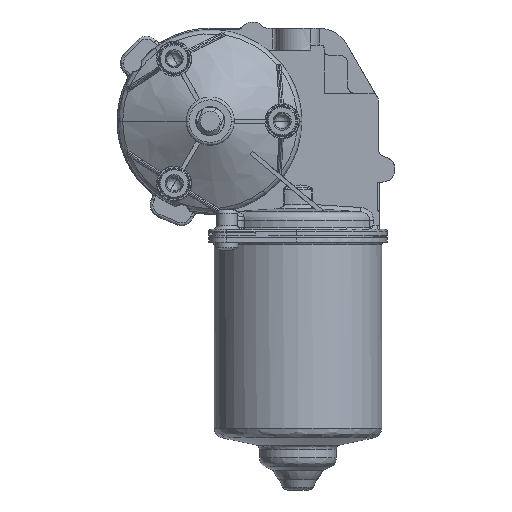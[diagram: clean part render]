
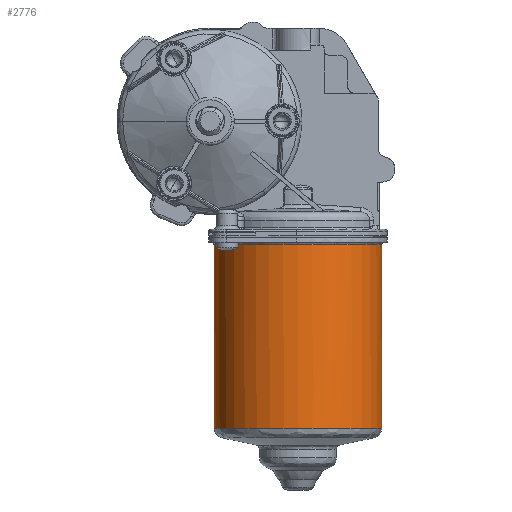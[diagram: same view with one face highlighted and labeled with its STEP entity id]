
A CAD part, left-side view. The second image highlights one B-rep face of the part: STEP entity #2776.
In plain terms, the highlighted free-form (B-spline) face has degree [1, 8] with [2, 9] control points.
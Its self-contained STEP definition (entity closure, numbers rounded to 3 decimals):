
#2745 = ORIENTED_EDGE ( 'NONE', *, *, #23895, .F. ) ;
#2764 = EDGE_LOOP ( 'NONE', ( #2777, #2775, #2745, #2816 ) ) ;
#2769 = EDGE_CURVE ( 'NONE', #2771, #23889, #18449, .T. ) ;
#2770 = EDGE_CURVE ( 'NONE', #2771, #2774, #18464, .T. ) ;
#2771 = VERTEX_POINT ( 'NONE', #18463 ) ;
#2774 = VERTEX_POINT ( 'NONE', #18453 ) ;
#2775 = ORIENTED_EDGE ( 'NONE', *, *, #2769, .T. ) ;
#2776 = ADVANCED_FACE ( 'NONE', ( #18451 ), #18495, .F. ) ;
#2777 = ORIENTED_EDGE ( 'NONE', *, *, #2770, .F. ) ;
#2816 = ORIENTED_EDGE ( 'NONE', *, *, #2820, .T. ) ;
#2820 = EDGE_CURVE ( 'NONE', #23893, #2774, #18597, .T. ) ;
#18449 = B_SPLINE_CURVE_WITH_KNOTS ( 'NONE', 1,
 ( #18466, #18465 ),
 .UNSPECIFIED., .F., .F.,
 ( 2, 2 ),
 ( 0., 1. ),
 .UNSPECIFIED. ) ;
#18451 = FACE_OUTER_BOUND ( 'NONE', #2764, .T. ) ;
#18453 = CARTESIAN_POINT ( 'NONE',  ( 24.999, -60.599, -43.7 ) ) ;
#18454 = CARTESIAN_POINT ( 'NONE',  ( 24.999, -60.599, -43.7 ) ) ;
#18455 = CARTESIAN_POINT ( 'NONE',  ( 13.376, -60.6, -43.7 ) ) ;
#18456 = CARTESIAN_POINT ( 'NONE',  ( 1.752, -55.381, -43.7 ) ) ;
#18457 = CARTESIAN_POINT ( 'NONE',  ( -7.139, -44.956, -43.7 ) ) ;
#18458 = CARTESIAN_POINT ( 'NONE',  ( -10.574, -31., -43.7 ) ) ;
#18459 = CARTESIAN_POINT ( 'NONE',  ( -7.139, -17.044, -43.7 ) ) ;
#18460 = CARTESIAN_POINT ( 'NONE',  ( 1.752, -6.619, -43.7 ) ) ;
#18461 = CARTESIAN_POINT ( 'NONE',  ( 13.376, -1.4, -43.7 ) ) ;
#18462 = CARTESIAN_POINT ( 'NONE',  ( 24.999, -1.401, -43.7 ) ) ;
#18463 = CARTESIAN_POINT ( 'NONE',  ( 24.999, -1.401, -43.7 ) ) ;
#18464 = B_SPLINE_CURVE_WITH_KNOTS ( 'NONE', 8,
 ( #18462, #18461, #18460, #18459, #18458, #18457, #18456, #18455, #18454 ),
 .UNSPECIFIED., .F., .F.,
 ( 9, 9 ),
 ( 0., 1. ),
 .UNSPECIFIED. ) ;
#18465 = CARTESIAN_POINT ( 'NONE',  ( 24.999, -1.401, -108.318 ) ) ;
#18466 = CARTESIAN_POINT ( 'NONE',  ( 24.999, -1.401, -43.7 ) ) ;
#18478 = CARTESIAN_POINT ( 'NONE',  ( -7.139, -44.956, -43.7 ) ) ;
#18480 = CARTESIAN_POINT ( 'NONE',  ( -10.574, -31., -43.7 ) ) ;
#18481 = CARTESIAN_POINT ( 'NONE',  ( -7.139, -17.044, -43.7 ) ) ;
#18482 = CARTESIAN_POINT ( 'NONE',  ( 1.752, -6.619, -43.7 ) ) ;
#18483 = CARTESIAN_POINT ( 'NONE',  ( 13.376, -1.4, -43.7 ) ) ;
#18484 = CARTESIAN_POINT ( 'NONE',  ( 24.999, -1.401, -43.7 ) ) ;
#18485 = CARTESIAN_POINT ( 'NONE',  ( 24.999, -60.599, -108.318 ) ) ;
#18486 = CARTESIAN_POINT ( 'NONE',  ( 13.376, -60.6, -108.318 ) ) ;
#18487 = CARTESIAN_POINT ( 'NONE',  ( 1.752, -55.381, -108.318 ) ) ;
#18488 = CARTESIAN_POINT ( 'NONE',  ( -7.139, -44.956, -108.318 ) ) ;
#18490 = CARTESIAN_POINT ( 'NONE',  ( -10.574, -31., -108.318 ) ) ;
#18491 = CARTESIAN_POINT ( 'NONE',  ( -7.139, -17.044, -108.318 ) ) ;
#18492 = CARTESIAN_POINT ( 'NONE',  ( 1.752, -6.619, -108.318 ) ) ;
#18493 = CARTESIAN_POINT ( 'NONE',  ( 13.376, -1.4, -108.318 ) ) ;
#18494 = CARTESIAN_POINT ( 'NONE',  ( 24.999, -1.401, -108.318 ) ) ;
#18495 = B_SPLINE_SURFACE_WITH_KNOTS ( 'NONE', 1, 8, ( 
 ( #18494, #18493, #18492, #18491, #18490, #18488, #18487, #18486, #18485 ),
 ( #18484, #18483, #18482, #18481, #18480, #18478, #18547, #18546, #18545 ) ),
 .UNSPECIFIED., .F., .F., .F.,
 ( 2, 2 ),
 ( 9, 9 ),
 ( 0., 1. ),
 ( 0., 1. ),
 .UNSPECIFIED. ) ;
#18545 = CARTESIAN_POINT ( 'NONE',  ( 24.999, -60.599, -43.7 ) ) ;
#18546 = CARTESIAN_POINT ( 'NONE',  ( 13.376, -60.6, -43.7 ) ) ;
#18547 = CARTESIAN_POINT ( 'NONE',  ( 1.752, -55.381, -43.7 ) ) ;
#18595 = CARTESIAN_POINT ( 'NONE',  ( 24.999, -60.599, -43.7 ) ) ;
#18596 = CARTESIAN_POINT ( 'NONE',  ( 24.999, -60.599, -108.318 ) ) ;
#18597 = B_SPLINE_CURVE_WITH_KNOTS ( 'NONE', 1,
 ( #18596, #18595 ),
 .UNSPECIFIED., .F., .F.,
 ( 2, 2 ),
 ( 0., 1. ),
 .UNSPECIFIED. ) ;
#23889 = VERTEX_POINT ( 'NONE', #33865 ) ;
#23893 = VERTEX_POINT ( 'NONE', #33918 ) ;
#23895 = EDGE_CURVE ( 'NONE', #23893, #23889, #33968, .T. ) ;
#33865 = CARTESIAN_POINT ( 'NONE',  ( 24.999, -1.401, -108.318 ) ) ;
#33918 = CARTESIAN_POINT ( 'NONE',  ( 24.999, -60.599, -108.318 ) ) ;
#33959 = CARTESIAN_POINT ( 'NONE',  ( 24.999, -1.401, -108.318 ) ) ;
#33960 = CARTESIAN_POINT ( 'NONE',  ( 13.376, -1.4, -108.318 ) ) ;
#33961 = CARTESIAN_POINT ( 'NONE',  ( 1.752, -6.619, -108.318 ) ) ;
#33962 = CARTESIAN_POINT ( 'NONE',  ( -7.139, -17.044, -108.318 ) ) ;
#33963 = CARTESIAN_POINT ( 'NONE',  ( -10.574, -31., -108.318 ) ) ;
#33964 = CARTESIAN_POINT ( 'NONE',  ( -7.139, -44.956, -108.318 ) ) ;
#33965 = CARTESIAN_POINT ( 'NONE',  ( 1.752, -55.381, -108.318 ) ) ;
#33966 = CARTESIAN_POINT ( 'NONE',  ( 13.376, -60.6, -108.318 ) ) ;
#33967 = CARTESIAN_POINT ( 'NONE',  ( 24.999, -60.599, -108.318 ) ) ;
#33968 = B_SPLINE_CURVE_WITH_KNOTS ( 'NONE', 8,
 ( #33967, #33966, #33965, #33964, #33963, #33962, #33961, #33960, #33959 ),
 .UNSPECIFIED., .F., .F.,
 ( 9, 9 ),
 ( 0., 1. ),
 .UNSPECIFIED. ) ;
